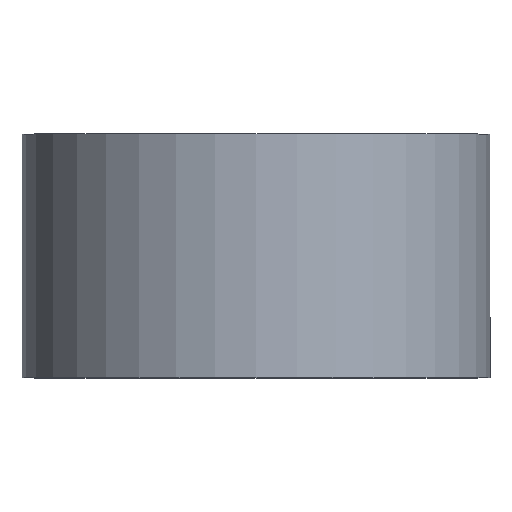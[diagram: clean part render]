
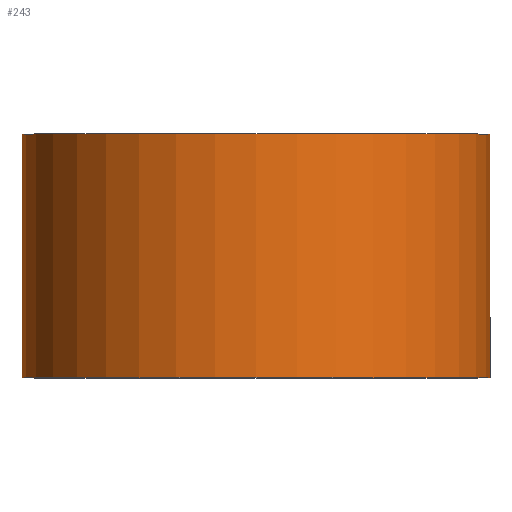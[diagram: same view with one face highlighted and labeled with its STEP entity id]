
A CAD part, top view. The second image highlights one B-rep face of the part: STEP entity #243.
In plain terms, the highlighted cylindrical face has radius 24 mm (diameter 48 mm), a partial arc.
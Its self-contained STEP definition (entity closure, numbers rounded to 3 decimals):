
#3 = ORIENTED_EDGE ( 'NONE', *, *, #22, .F. ) ;
#6 = CYLINDRICAL_SURFACE ( 'NONE', #62, 24. ) ;
#11 = EDGE_CURVE ( 'NONE', #39, #41, #54, .T. ) ;
#15 = LINE ( 'NONE', #295, #63 ) ;
#22 = EDGE_CURVE ( 'NONE', #41, #219, #46, .T. ) ;
#24 = DIRECTION ( 'NONE',  ( -1., 0., 0. ) ) ;
#27 = CIRCLE ( 'NONE', #257, 24. ) ;
#39 = VERTEX_POINT ( 'NONE', #77 ) ;
#41 = VERTEX_POINT ( 'NONE', #49 ) ;
#46 = CIRCLE ( 'NONE', #199, 24. ) ;
#49 = CARTESIAN_POINT ( 'NONE',  ( -24., 25., 0. ) ) ;
#54 = LINE ( 'NONE', #68, #185 ) ;
#62 = AXIS2_PLACEMENT_3D ( 'NONE', #71, #231, #210 ) ;
#63 = VECTOR ( 'NONE', #91, 1000. ) ;
#68 = CARTESIAN_POINT ( 'NONE',  ( -24., 0., 0. ) ) ;
#71 = CARTESIAN_POINT ( 'NONE',  ( 0., 0., 0. ) ) ;
#77 = CARTESIAN_POINT ( 'NONE',  ( -24., 0., 0. ) ) ;
#91 = DIRECTION ( 'NONE',  ( 0., 1., 0. ) ) ;
#95 = DIRECTION ( 'NONE',  ( 0., 1., 0. ) ) ;
#134 = EDGE_CURVE ( 'NONE', #39, #152, #27, .T. ) ;
#152 = VERTEX_POINT ( 'NONE', #262 ) ;
#163 = ORIENTED_EDGE ( 'NONE', *, *, #221, .T. ) ;
#171 = ORIENTED_EDGE ( 'NONE', *, *, #134, .T. ) ;
#185 = VECTOR ( 'NONE', #296, 1000. ) ;
#190 = CARTESIAN_POINT ( 'NONE',  ( 0., 0., 0. ) ) ;
#199 = AXIS2_PLACEMENT_3D ( 'NONE', #205, #95, #272 ) ;
#205 = CARTESIAN_POINT ( 'NONE',  ( 0., 25., 0. ) ) ;
#210 = DIRECTION ( 'NONE',  ( -1., 0., 0. ) ) ;
#216 = ORIENTED_EDGE ( 'NONE', *, *, #11, .F. ) ;
#219 = VERTEX_POINT ( 'NONE', #222 ) ;
#221 = EDGE_CURVE ( 'NONE', #152, #219, #15, .T. ) ;
#222 = CARTESIAN_POINT ( 'NONE',  ( 24., 25., 0. ) ) ;
#230 = EDGE_LOOP ( 'NONE', ( #171, #163, #3, #216 ) ) ;
#231 = DIRECTION ( 'NONE',  ( 0., 1., 0. ) ) ;
#243 = ADVANCED_FACE ( 'NONE', ( #260 ), #6, .T. ) ;
#257 = AXIS2_PLACEMENT_3D ( 'NONE', #190, #284, #24 ) ;
#260 = FACE_OUTER_BOUND ( 'NONE', #230, .T. ) ;
#262 = CARTESIAN_POINT ( 'NONE',  ( 24., 0., 0. ) ) ;
#272 = DIRECTION ( 'NONE',  ( -1., 0., 0. ) ) ;
#284 = DIRECTION ( 'NONE',  ( 0., 1., 0. ) ) ;
#295 = CARTESIAN_POINT ( 'NONE',  ( 24., 0., 0. ) ) ;
#296 = DIRECTION ( 'NONE',  ( 0., 1., 0. ) ) ;
